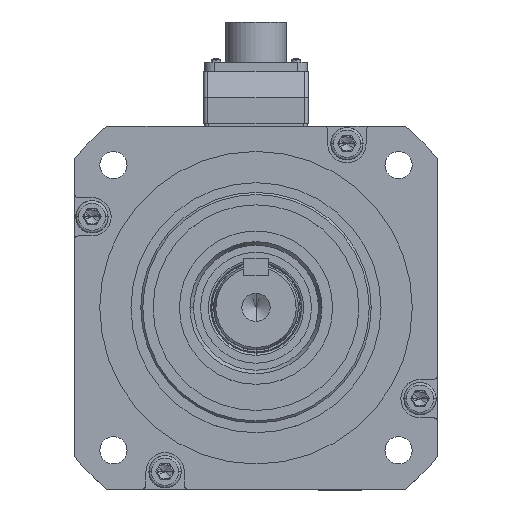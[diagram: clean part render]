
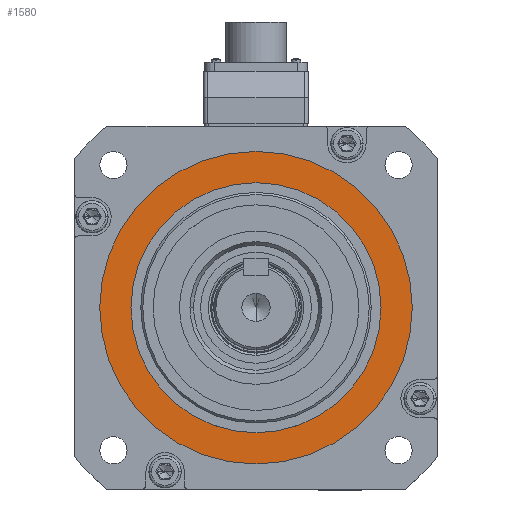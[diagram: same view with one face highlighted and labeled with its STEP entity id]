
A CAD part, top view. The second image highlights one B-rep face of the part: STEP entity #1580.
In plain terms, the highlighted planar face has unit normal (0, 0, 1).
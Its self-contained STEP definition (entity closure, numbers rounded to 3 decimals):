
#1580 = ADVANCED_FACE ( 'NONE', ( #36217, #36225 ), #36068, .T. ) ;
#5581 = ORIENTED_EDGE ( 'NONE', *, *, #57806, .F. ) ;
#5583 = ORIENTED_EDGE ( 'NONE', *, *, #58018, .F. ) ;
#5584 = ORIENTED_EDGE ( 'NONE', *, *, #58017, .T. ) ;
#5586 = ORIENTED_EDGE ( 'NONE', *, *, #57810, .T. ) ;
#21134 = AXIS2_PLACEMENT_3D ( 'NONE', #36065, #36071, #36073 ) ;
#24336 = VERTEX_POINT ( 'NONE', #42951 ) ;
#24340 = VERTEX_POINT ( 'NONE', #42953 ) ;
#24345 = VERTEX_POINT ( 'NONE', #42956 ) ;
#24352 = VERTEX_POINT ( 'NONE', #42958 ) ;
#36065 = CARTESIAN_POINT ( 'NONE',  ( 0., 0., 20. ) ) ;
#36068 = PLANE ( 'NONE',  #21134 ) ;
#36071 = DIRECTION ( 'NONE',  ( 0., 0., 1. ) ) ;
#36073 = DIRECTION ( 'NONE',  ( 1., 0., 0. ) ) ;
#36217 = FACE_BOUND ( 'NONE', #64713, .T. ) ;
#36225 = FACE_OUTER_BOUND ( 'NONE', #64703, .T. ) ;
#39079 = AXIS2_PLACEMENT_3D ( 'NONE', #53583, #53584, #53585 ) ;
#39082 = AXIS2_PLACEMENT_3D ( 'NONE', #53593, #53594, #53595 ) ;
#39225 = AXIS2_PLACEMENT_3D ( 'NONE', #54112, #54113, #54114 ) ;
#39227 = AXIS2_PLACEMENT_3D ( 'NONE', #54115, #54116, #54117 ) ;
#42951 = CARTESIAN_POINT ( 'NONE',  ( 62., 0., 20. ) ) ;
#42953 = CARTESIAN_POINT ( 'NONE',  ( -62., 0., 20. ) ) ;
#42956 = CARTESIAN_POINT ( 'NONE',  ( -77.5, 0., 20. ) ) ;
#42958 = CARTESIAN_POINT ( 'NONE',  ( 77.5, 0., 20. ) ) ;
#50884 = CIRCLE ( 'NONE', #39079, 62. ) ;
#50902 = CIRCLE ( 'NONE', #39082, 77.5 ) ;
#51543 = CIRCLE ( 'NONE', #39225, 77.5 ) ;
#51544 = CIRCLE ( 'NONE', #39227, 62. ) ;
#53583 = CARTESIAN_POINT ( 'NONE',  ( 0., 0., 20. ) ) ;
#53584 = DIRECTION ( 'NONE',  ( 0., 0., 1. ) ) ;
#53585 = DIRECTION ( 'NONE',  ( 1., 0., 0. ) ) ;
#53593 = CARTESIAN_POINT ( 'NONE',  ( 0., 0., 20. ) ) ;
#53594 = DIRECTION ( 'NONE',  ( 0., 0., 1. ) ) ;
#53595 = DIRECTION ( 'NONE',  ( 1., 0., 0. ) ) ;
#54112 = CARTESIAN_POINT ( 'NONE',  ( 0., 0., 20. ) ) ;
#54113 = DIRECTION ( 'NONE',  ( 0., 0., 1. ) ) ;
#54114 = DIRECTION ( 'NONE',  ( 1., 0., 0. ) ) ;
#54115 = CARTESIAN_POINT ( 'NONE',  ( 0., 0., 20. ) ) ;
#54116 = DIRECTION ( 'NONE',  ( 0., 0., 1. ) ) ;
#54117 = DIRECTION ( 'NONE',  ( 1., 0., 0. ) ) ;
#57806 = EDGE_CURVE ( 'NONE', #24336, #24340, #50884, .T. ) ;
#57810 = EDGE_CURVE ( 'NONE', #24345, #24352, #50902, .T. ) ;
#58017 = EDGE_CURVE ( 'NONE', #24352, #24345, #51543, .T. ) ;
#58018 = EDGE_CURVE ( 'NONE', #24340, #24336, #51544, .T. ) ;
#64703 = EDGE_LOOP ( 'NONE', ( #5584, #5586 ) ) ;
#64713 = EDGE_LOOP ( 'NONE', ( #5581, #5583 ) ) ;
